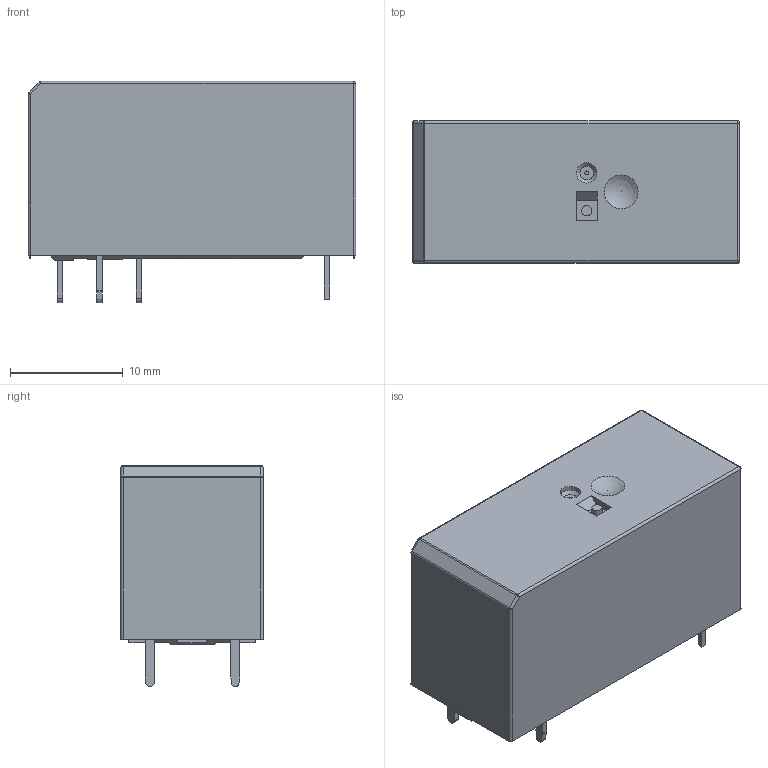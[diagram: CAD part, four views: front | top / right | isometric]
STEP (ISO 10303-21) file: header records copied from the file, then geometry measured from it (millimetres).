
FILE_DESCRIPTION(('FreeCAD Model'),'2;1');
FILE_NAME('C:/Users/Jane Koetz/Desktop/JXE1R.stp','2020-05-21T10:22:35', ('VKV'),('Metaltex'),'Open CASCADE STEP processor 7.3','FreeCAD', 'Unknown');
FILE_SCHEMA(('AUTOMOTIVE_DESIGN { 1 0 10303 214 1 1 1 1 }'));
Length unit declared in the file: millimetre
Products named in the file (1): JXE1R
Bounding box: 29 x 12.6 x 19.6 mm (x, y, z)
Volume: 5463.9 mm3; surface area: 2766.3 mm2
Topology: 1 solids, 6 shells, 212 faces, 544 edges, 341 vertices
Faces by surface type: plane 139, cylinder 50, sphere 10, bspline 6, torus 5, cone 2
Full cylindrical faces by diameter (mm): 0.35 x1, 0.9 x1, 1.8 x1, 2 x1
Entity records: 6381 total; most frequent: CARTESIAN_POINT 1204, DIRECTION 1062, ORIENTED_EDGE 1062, EDGE_CURVE 531, LINE 396, VECTOR 396, VERTEX_POINT 341, AXIS2_PLACEMENT_3D 333
